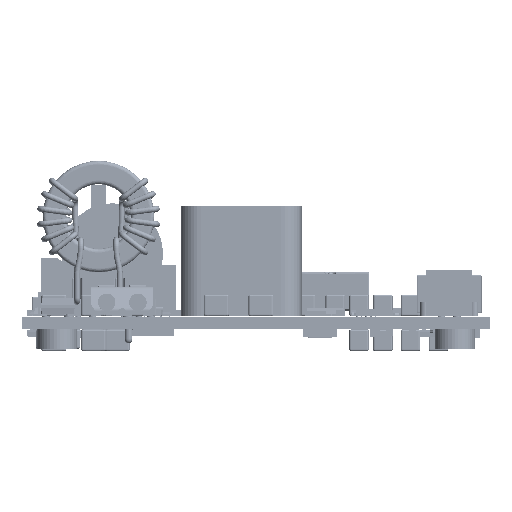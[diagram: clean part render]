
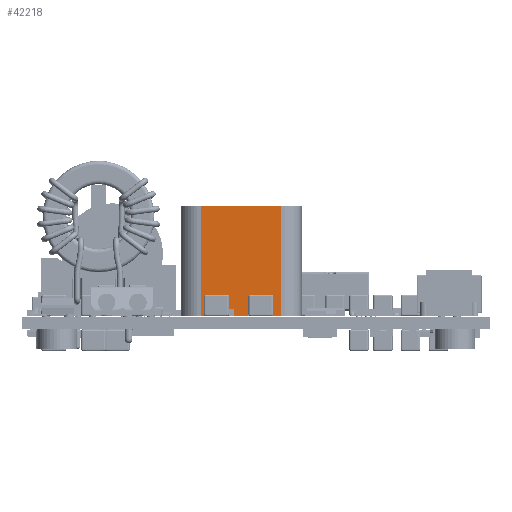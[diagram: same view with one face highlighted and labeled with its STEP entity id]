
A CAD part, left-side view. The second image highlights one B-rep face of the part: STEP entity #42218.
In plain terms, the highlighted planar face has unit normal (-1, 0, 0) as drawn and (1, 0, 0) by its records, which use the part's own axes.
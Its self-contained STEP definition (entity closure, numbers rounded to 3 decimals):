
#42218=ADVANCED_FACE('',(#87662),#87663,.F.);
#87662=FACE_OUTER_BOUND('',#187427,.T.);
#87663=PLANE('',#187428);
#187427=EDGE_LOOP('',(#327147,#327148,#327149,#327150,#327151,#327152,#327153,#327154,#327155,#327156,#327157,#327158));
#187428=AXIS2_PLACEMENT_3D('',#327159,#327160,#327161);
#327147=ORIENTED_EDGE('',*,*,#452945,.F.);
#327148=ORIENTED_EDGE('',*,*,#452943,.T.);
#327149=ORIENTED_EDGE('',*,*,#452946,.F.);
#327150=ORIENTED_EDGE('',*,*,#452947,.F.);
#327151=ORIENTED_EDGE('',*,*,#452948,.F.);
#327152=ORIENTED_EDGE('',*,*,#452939,.T.);
#327153=ORIENTED_EDGE('',*,*,#452949,.F.);
#327154=ORIENTED_EDGE('',*,*,#452950,.F.);
#327155=ORIENTED_EDGE('',*,*,#452951,.F.);
#327156=ORIENTED_EDGE('',*,*,#452935,.T.);
#327157=ORIENTED_EDGE('',*,*,#452952,.F.);
#327158=ORIENTED_EDGE('',*,*,#452953,.F.);
#327159=CARTESIAN_POINT('',(7.75,7.75,14.147));
#327160=DIRECTION('',(-1.0,0.,0.0));
#327161=DIRECTION('',(0.,-1.0,0.0));
#452935=EDGE_CURVE('',#540157,#540155,#540158,.T.);
#452939=EDGE_CURVE('',#540165,#540163,#540166,.T.);
#452943=EDGE_CURVE('',#540127,#540171,#540173,.T.);
#452945=EDGE_CURVE('',#540127,#540175,#540176,.T.);
#452946=EDGE_CURVE('',#540177,#540171,#540178,.T.);
#452947=EDGE_CURVE('',#540179,#540177,#540180,.T.);
#452948=EDGE_CURVE('',#540165,#540179,#540181,.T.);
#452949=EDGE_CURVE('',#540182,#540163,#540183,.T.);
#452950=EDGE_CURVE('',#540184,#540182,#540185,.T.);
#452951=EDGE_CURVE('',#540157,#540184,#540186,.T.);
#452952=EDGE_CURVE('',#540187,#540155,#540188,.T.);
#452953=EDGE_CURVE('',#540175,#540187,#540189,.T.);
#540127=VERTEX_POINT('',#666759);
#540155=VERTEX_POINT('',#666798);
#540157=VERTEX_POINT('',#666800);
#540158=LINE('',#666801,#666802);
#540163=VERTEX_POINT('',#666809);
#540165=VERTEX_POINT('',#666812);
#540166=LINE('',#666813,#666814);
#540171=VERTEX_POINT('',#666821);
#540173=LINE('',#666824,#666825);
#540175=VERTEX_POINT('',#666827);
#540176=LINE('',#666828,#666829);
#540177=VERTEX_POINT('',#666830);
#540178=LINE('',#666831,#666832);
#540179=VERTEX_POINT('',#666833);
#540180=LINE('',#666834,#666835);
#540181=LINE('',#666836,#666837);
#540182=VERTEX_POINT('',#666838);
#540183=LINE('',#666839,#666840);
#540184=VERTEX_POINT('',#666841);
#540185=LINE('',#666842,#666843);
#540186=LINE('',#666844,#666845);
#540187=VERTEX_POINT('',#666846);
#540188=LINE('',#666847,#666848);
#540189=LINE('',#666849,#666850);
#666759=CARTESIAN_POINT('',(7.75,-5.15,0.047));
#666798=CARTESIAN_POINT('',(7.75,5.15,0.047));
#666800=CARTESIAN_POINT('',(7.75,2.8,0.047));
#666801=CARTESIAN_POINT('',(7.75,-7.75,0.047));
#666802=VECTOR('',#766732,1000.0);
#666809=CARTESIAN_POINT('',(7.75,0.9,0.047));
#666812=CARTESIAN_POINT('',(7.75,-0.9,0.047));
#666813=CARTESIAN_POINT('',(7.75,-7.75,0.047));
#666814=VECTOR('',#766736,1000.0);
#666821=CARTESIAN_POINT('',(7.75,-2.8,0.047));
#666824=CARTESIAN_POINT('',(7.75,-7.75,0.047));
#666825=VECTOR('',#766740,1000.0);
#666827=CARTESIAN_POINT('',(7.75,-5.15,14.147));
#666828=CARTESIAN_POINT('',(7.75,-5.15,14.147));
#666829=VECTOR('',#766741,1000.0);
#666830=CARTESIAN_POINT('',(7.75,-2.8,0.997));
#666831=CARTESIAN_POINT('',(7.75,-2.8,14.147));
#666832=VECTOR('',#766742,1000.0);
#666833=CARTESIAN_POINT('',(7.75,-0.9,0.997));
#666834=CARTESIAN_POINT('',(7.75,7.75,0.997));
#666835=VECTOR('',#766743,1000.0);
#666836=CARTESIAN_POINT('',(7.75,-0.9,14.147));
#666837=VECTOR('',#766744,1000.0);
#666838=CARTESIAN_POINT('',(7.75,0.9,0.997));
#666839=CARTESIAN_POINT('',(7.75,0.9,14.147));
#666840=VECTOR('',#766745,1000.0);
#666841=CARTESIAN_POINT('',(7.75,2.8,0.997));
#666842=CARTESIAN_POINT('',(7.75,7.75,0.997));
#666843=VECTOR('',#766746,1000.0);
#666844=CARTESIAN_POINT('',(7.75,2.8,14.147));
#666845=VECTOR('',#766747,1000.0);
#666846=CARTESIAN_POINT('',(7.75,5.15,14.147));
#666847=CARTESIAN_POINT('',(7.75,5.15,14.147));
#666848=VECTOR('',#766748,1000.0);
#666849=CARTESIAN_POINT('',(7.75,7.75,14.147));
#666850=VECTOR('',#766749,1000.0);
#766732=DIRECTION('',(0.0,1.0,0.0));
#766736=DIRECTION('',(0.0,1.0,0.0));
#766740=DIRECTION('',(0.0,1.0,0.0));
#766741=DIRECTION('',(0.0,0.0,1.0));
#766742=DIRECTION('',(0.0,-0.0,-1.0));
#766743=DIRECTION('',(0.,-1.0,0.0));
#766744=DIRECTION('',(0.0,0.0,1.0));
#766745=DIRECTION('',(0.0,-0.0,-1.0));
#766746=DIRECTION('',(0.,-1.0,0.0));
#766747=DIRECTION('',(0.0,0.0,1.0));
#766748=DIRECTION('',(0.0,-0.0,-1.0));
#766749=DIRECTION('',(0.,1.0,-0.0));
